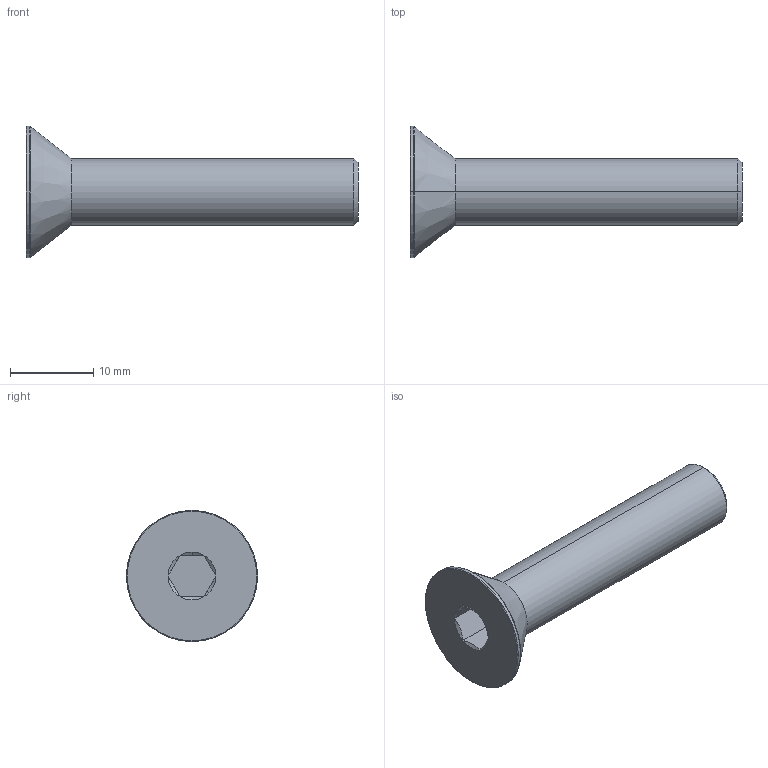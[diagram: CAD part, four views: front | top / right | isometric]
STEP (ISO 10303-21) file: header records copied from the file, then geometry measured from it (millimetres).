
FILE_DESCRIPTION (( 'STEP AP203' ), '1' );
FILE_NAME ('LGDB-TDE-M8x40.STEP', '2026-08-10T13:20:32', ( '' ), ( '' ), 'SwSTEP 2.0', 'SolidWorks 2020', '' );
FILE_SCHEMA (( 'CONFIG_CONTROL_DESIGN' ));
Length unit declared in the file: millimetre
Products named in the file (1): LGDB-TDE-M8x40
Bounding box: 40 x 15.8 x 15.8 mm (x, y, z)
Volume: 2318 mm3; surface area: 1432.6 mm2
Topology: 1 solids, 1 shells, 28 faces, 53 edges, 28 vertices
Faces by surface type: cone 11, plane 9, torus 4, cylinder 4
Entity records: 796 total; most frequent: CARTESIAN_POINT 157, DIRECTION 129, ORIENTED_EDGE 106, AXIS2_PLACEMENT_3D 54, EDGE_CURVE 53, EDGE_LOOP 29, ADVANCED_FACE 28, FACE_OUTER_BOUND 28
